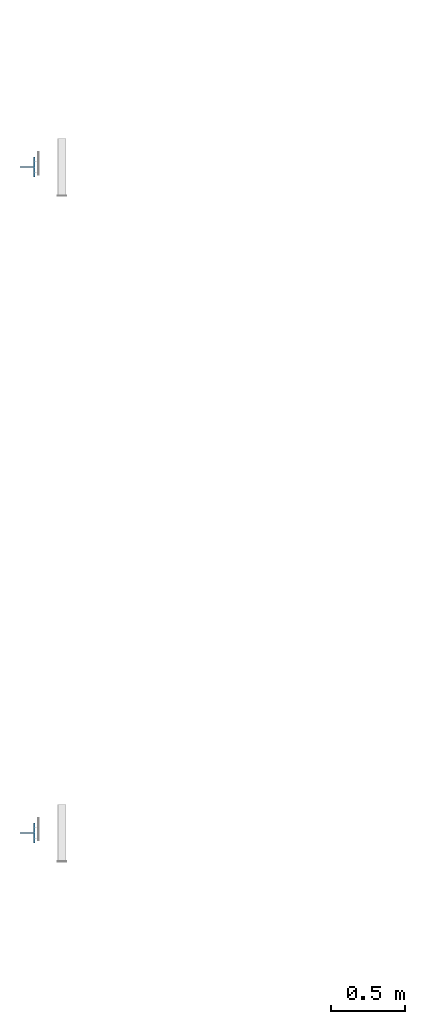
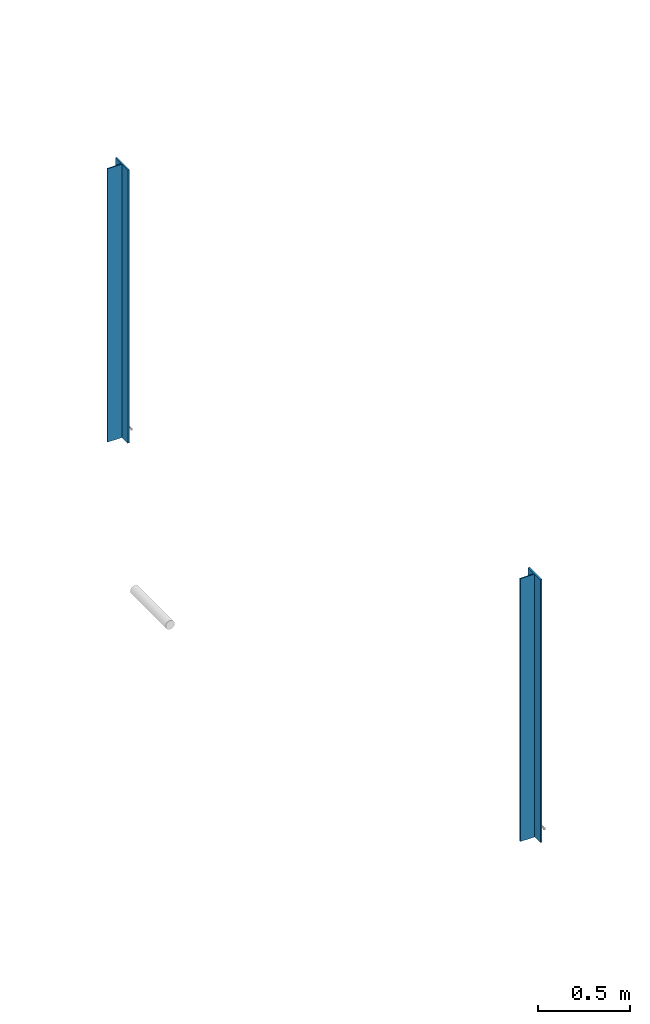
# One storey, part 126 of 186: 2 beams.
"""IFC4X3_ADD2 building model written with IfcOpenShell, lengths in millimetres."""

from ifc_helpers import new_model, si_unit, direction, frame, origin_with_axes, place, context, subcontext, project, spatial, polygons, element, save


model = new_model("IFC4X3_ADD2")

# Units and contexts
model_context = context("Model", 3, precision=1e-05, world=origin_with_axes(), true_north=direction((0.0, 1.0)))
body_context = subcontext(model_context, "Body", "Model", "MODEL_VIEW")
ifc_project = project(units=[si_unit("LENGTHUNIT", "METRE", prefix="MILLI"), si_unit("AREAUNIT", "SQUARE_METRE"), si_unit("VOLUMEUNIT", "CUBIC_METRE"), si_unit("PLANEANGLEUNIT", "RADIAN"), si_unit("TIMEUNIT", "SECOND"), si_unit("MASSUNIT", "GRAM")], contexts=[model_context])

# Site, building, storey
site_placement = place(None, origin_with_axes())
site = spatial("IfcSite", under=ifc_project, at=site_placement, Name="Site", CompositionType="ELEMENT")
building_placement = place(site_placement, origin_with_axes())
building = spatial("IfcBuilding", under=site, at=building_placement, Name="IFC Building Story")
storey_placement = place(building_placement, frame((0.0, 0.0, 4370.0), z_axis=(0.0, 0.0, 1.0), x_axis=(1.0, 0.0, 0.0)))
storey = spatial("IfcBuildingStorey", under=building, at=storey_placement, Name="ETAGE 10 (1)", Elevation=4370.0)

# Beams
beam_1_placement = place(storey_placement, frame((0.0, 0.0, -4370.0), z_axis=(0.0, 0.0, 1.0), x_axis=(1.0, 0.0, 0.0)))
element("IfcBeam", 1, at=beam_1_placement, inside=storey, Name="PS6", ObjectType="HALF_IPE270_100", context=body_context, shape_type="Tessellation", body=[
    polygons([(4678.08977737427, 4496.700202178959, 9980.0), (4678.08977737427, 4496.700202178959, 8230.0), (4767.889777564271, 4496.700202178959, 8230.0), (4767.889777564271, 4496.700202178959, 9980.0), (4767.889777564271, 4432.500202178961, 8230.0), (4767.889777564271, 4432.500202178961, 9980.0), (4778.08977737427, 4432.500202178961, 8230.0), (4778.08977737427, 4432.500202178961, 9980.0), (4778.08977737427, 4567.500202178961, 8230.0), (4778.08977737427, 4567.500202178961, 9980.0), (4767.889777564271, 4567.500202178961, 8230.0), (4767.889777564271, 4567.500202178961, 9980.0), (4767.889777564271, 4503.300202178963, 8230.0), (4767.889777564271, 4503.30020217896, 9980.0), (4678.08977737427, 4503.300202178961, 8230.0), (4678.08977737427, 4503.300202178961, 9980.0)], [[[1, 2, 3, 4]], [[4, 3, 5, 6]], [[6, 5, 7, 8]], [[8, 7, 9, 10]], [[10, 9, 11, 12]], [[12, 11, 13, 14]], [[14, 13, 15, 16]], [[16, 15, 2, 1]], [[4, 6, 8]], [[4, 8, 14]], [[14, 16, 1]], [[14, 1, 4]], [[8, 10, 14]], [[10, 12, 14]], [[13, 11, 9]], [[13, 9, 3]], [[3, 2, 15]], [[3, 15, 13]], [[9, 7, 3]], [[7, 5, 3]]]),
])
beam_2_placement = place(storey_placement, frame((0.0, 0.0, -4370.0), z_axis=(0.0, 0.0, 1.0), x_axis=(1.0, 0.0, 0.0)))
element("IfcBeam", 2, at=beam_2_placement, inside=storey, Name="PS6", ObjectType="HALF_IPE270_100", context=body_context, shape_type="Tessellation", body=[
    polygons([(4678.08977737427, 8996.6997253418, 9980.0), (4678.08977737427, 8996.6997253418, 8160.0), (4767.889777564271, 8996.6997253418, 8160.0), (4767.889777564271, 8996.6997253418, 9980.0), (4767.889777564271, 8932.4997253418, 8160.0), (4767.889777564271, 8932.4997253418, 9980.0), (4778.08977737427, 8932.4997253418, 8160.0), (4778.08977737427, 8932.4997253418, 9980.0), (4778.08977737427, 9067.4997253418, 8160.0), (4778.08977737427, 9067.4997253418, 9980.0), (4767.889777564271, 9067.4997253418, 8160.0), (4767.889777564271, 9067.4997253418, 9980.0), (4767.889777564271, 9003.299725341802, 8160.0), (4767.889777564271, 9003.299725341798, 9980.0), (4678.08977737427, 9003.299725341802, 8160.0), (4678.08977737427, 9003.299725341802, 9980.0)], [[[1, 2, 3, 4]], [[4, 3, 5, 6]], [[6, 5, 7, 8]], [[8, 7, 9, 10]], [[10, 9, 11, 12]], [[12, 11, 13, 14]], [[14, 13, 15, 16]], [[16, 15, 2, 1]], [[4, 6, 8]], [[4, 8, 14]], [[14, 16, 1]], [[14, 1, 4]], [[8, 10, 14]], [[10, 12, 14]], [[13, 11, 9]], [[13, 9, 3]], [[3, 2, 15]], [[3, 15, 13]], [[9, 7, 3]], [[7, 5, 3]]]),
])

save(model, "model.ifc")
